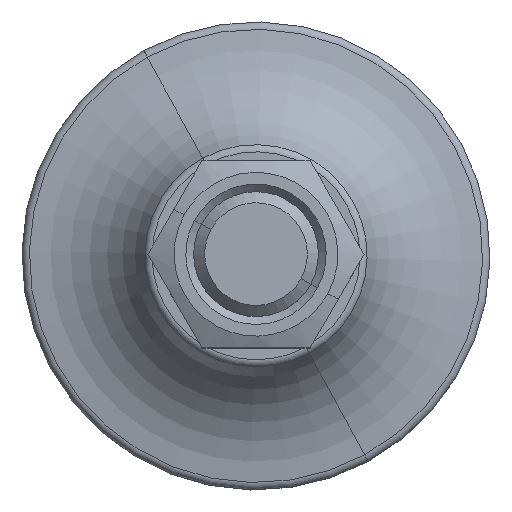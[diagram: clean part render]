
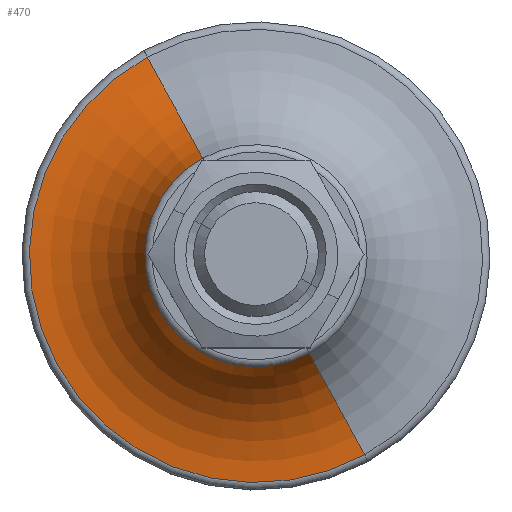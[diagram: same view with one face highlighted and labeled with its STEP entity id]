
A CAD part, top view. The second image highlights one B-rep face of the part: STEP entity #470.
In plain terms, the highlighted toroidal (fillet/blend) face has major radius 30 mm and minor radius 17.136 mm.
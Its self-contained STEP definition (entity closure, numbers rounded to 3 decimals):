
#61=CARTESIAN_POINT('Vertex',(13.93,-25.498,-10.974)) ;
#77=CARTESIAN_POINT('Vertex',(-13.93,25.498,-10.974)) ;
#102=CARTESIAN_POINT('Axis2P3D Location',(0.,0.,-10.974)) ;
#428=CARTESIAN_POINT('Axis2P3D Location',(0.,0.,6.136)) ;
#437=CARTESIAN_POINT('Vertex',(6.83,-12.502,-0.607)) ;
#439=CARTESIAN_POINT('Vertex',(-6.83,12.502,-0.607)) ;
#442=CARTESIAN_POINT('Axis2P3D Location',(14.383,-26.327,6.136)) ;
#447=CARTESIAN_POINT('Axis2P3D Location',(-14.383,26.327,6.136)) ;
#459=CARTESIAN_POINT('Axis2P3D Location',(0.,0.,-0.607)) ;
#103=DIRECTION('Axis2P3D Direction',(0.,-0.,1.)) ;
#429=DIRECTION('Axis2P3D Direction',(0.,0.,1.)) ;
#430=DIRECTION('Axis2P3D XDirection',(-0.479,0.878,0.)) ;
#443=DIRECTION('Axis2P3D Direction',(-0.878,-0.479,0.)) ;
#448=DIRECTION('Axis2P3D Direction',(0.878,0.479,-0.)) ;
#460=DIRECTION('Axis2P3D Direction',(0.,0.,1.)) ;
#104=AXIS2_PLACEMENT_3D('Circle Axis2P3D',#102,#103,$) ;
#431=AXIS2_PLACEMENT_3D('Torus Axis2P3D',#428,#429,#430) ;
#444=AXIS2_PLACEMENT_3D('Circle Axis2P3D',#442,#443,$) ;
#449=AXIS2_PLACEMENT_3D('Circle Axis2P3D',#447,#448,$) ;
#461=AXIS2_PLACEMENT_3D('Circle Axis2P3D',#459,#460,$) ;
#465=ORIENTED_EDGE('',*,*,#463,.F.) ;
#466=ORIENTED_EDGE('',*,*,#451,.F.) ;
#467=ORIENTED_EDGE('',*,*,#106,.T.) ;
#468=ORIENTED_EDGE('',*,*,#446,.T.) ;
#470=ADVANCED_FACE('PartBody',(#469),#432,.F.) ;
#105=CIRCLE('generated circle',#104,29.055) ;
#445=CIRCLE('generated circle',#444,17.136) ;
#450=CIRCLE('generated circle',#449,17.136) ;
#462=CIRCLE('generated circle',#461,14.246) ;
#432=TOROIDAL_SURFACE('homeo Torus',#431,30.,17.136) ;
#106=EDGE_CURVE('',#78,#62,#105,.T.) ;
#446=EDGE_CURVE('',#62,#438,#445,.F.) ;
#451=EDGE_CURVE('',#78,#440,#450,.F.) ;
#463=EDGE_CURVE('',#440,#438,#462,.T.) ;
#464=EDGE_LOOP('',(#465,#466,#467,#468)) ;
#469=FACE_OUTER_BOUND('',#464,.T.) ;
#62=VERTEX_POINT('',#61) ;
#78=VERTEX_POINT('',#77) ;
#438=VERTEX_POINT('',#437) ;
#440=VERTEX_POINT('',#439) ;
